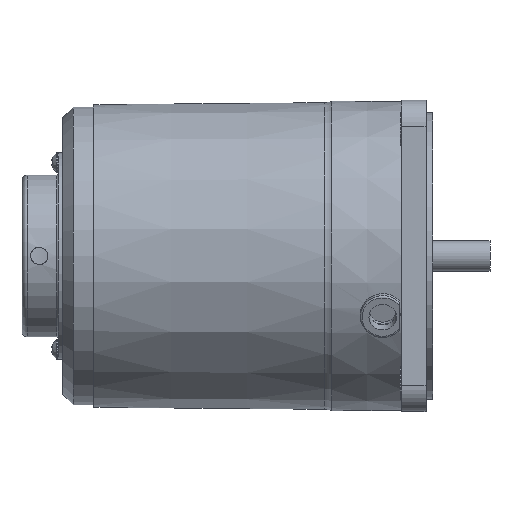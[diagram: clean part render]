
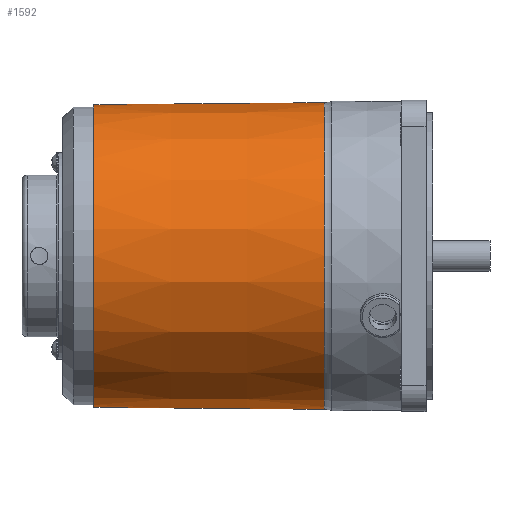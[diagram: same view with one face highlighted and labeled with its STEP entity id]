
A CAD part, top view. The second image highlights one B-rep face of the part: STEP entity #1592.
In plain terms, the highlighted conical face has half-angle 0.48 degrees and reference radius 44.029 mm.
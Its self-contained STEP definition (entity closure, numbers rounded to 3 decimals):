
#1558=CARTESIAN_POINT('',(9.,43.75,0.0));
#1559=VERTEX_POINT('',#1558);
#1560=CARTESIAN_POINT('',(9.,0.,0.0));
#1561=DIRECTION('',(1.0,0.0,0.0));
#1562=DIRECTION('',(0.0,1.0,0.0));
#1563=AXIS2_PLACEMENT_3D('',#1560,#1561,#1562);
#1564=CIRCLE('',#1563,43.75);
#1565=EDGE_CURVE('',#1559,#1559,#1564,.T.);
#1573=CARTESIAN_POINT('',(42.279,0.,0.0));
#1574=DIRECTION('',(1.0,0.,0.0));
#1575=DIRECTION('',(0.0,1.0,0.0));
#1576=AXIS2_PLACEMENT_3D('',#1573,#1574,#1575);
#1577=CONICAL_SURFACE('',#1576,44.029,0.48);
#1578=CARTESIAN_POINT('',(75.559,44.308,0.0));
#1579=VERTEX_POINT('',#1578);
#1580=CARTESIAN_POINT('',(75.559,0.,0.0));
#1581=DIRECTION('',(1.0,0.0,0.0));
#1582=DIRECTION('',(0.0,1.0,0.0));
#1583=AXIS2_PLACEMENT_3D('',#1580,#1581,#1582);
#1584=CIRCLE('',#1583,44.308);
#1585=EDGE_CURVE('',#1579,#1579,#1584,.T.);
#1586=ORIENTED_EDGE('',*,*,#1585,.F.);
#1587=EDGE_LOOP('',(#1586));
#1588=FACE_OUTER_BOUND('',#1587,.T.);
#1589=ORIENTED_EDGE('',*,*,#1565,.T.);
#1590=EDGE_LOOP('',(#1589));
#1591=FACE_BOUND('',#1590,.T.);
#1592=ADVANCED_FACE('',(#1588,#1591),#1577,.T.);
